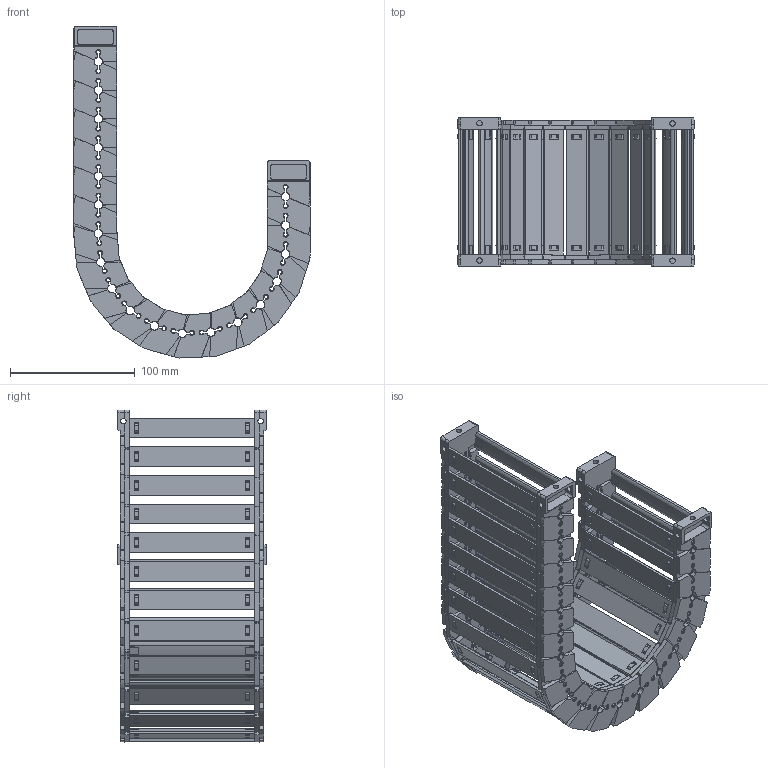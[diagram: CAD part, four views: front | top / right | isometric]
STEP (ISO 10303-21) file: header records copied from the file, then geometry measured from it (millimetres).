
FILE_DESCRIPTION((''),'2;1');
FILE_NAME('JY-28X100-R75_ASM','2026-05-07T14:48:23',('admin'),(''),'CREO PARAMETRIC BY PTC INC, 2021023','CREO PARAMETRIC BY PTC INC, 2021023','');
FILE_SCHEMA(('CONFIG_CONTROL_DESIGN'));
Length unit declared in the file: millimetre
Products named in the file (11): 28XL-L; 25-35XL-YP; 28XL-R; ASM0001_ASM; 28-LTT-A-L; 28-LTT-A-R; 28XL-LTT-A_ASM; 28-LTT-B-L; 28-LTT-B-R; 28XL-LTT-B_ASM; JY-28X100-R75_ASM
Assembly tree (32 placements, depth 3):
  JY-28X100-R75_ASM
    ASM0001_ASM  x18
      28XL-L
      25-35XL-YP
      28XL-R
    28XL-LTT-A_ASM
      28-LTT-A-L
      25-35XL-YP  x2
      28-LTT-A-R
    28XL-LTT-B_ASM
      28-LTT-B-L
      25-35XL-YP  x2
      28-LTT-B-R
Bounding box: 189.55 x 119 x 266.34 mm (x, y, z)
Volume: 408036.1 mm3; surface area: 294214.6 mm2
Topology: 80 solids, 80 shells, 6470 faces, 19228 edges, 12838 vertices
Faces by surface type: plane 4242, cone 1156, cylinder 934, bspline 138
Entity records: 29095 total; most frequent: CARTESIAN_POINT 9490, ORIENTED_EDGE 4352, DIRECTION 3655, EDGE_CURVE 2176, VERTEX_POINT 1454, VECTOR 1365, LINE 1365, AXIS2_PLACEMENT_3D 1145
